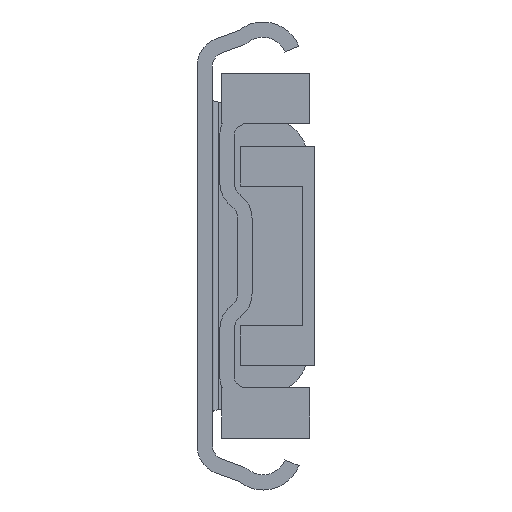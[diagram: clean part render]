
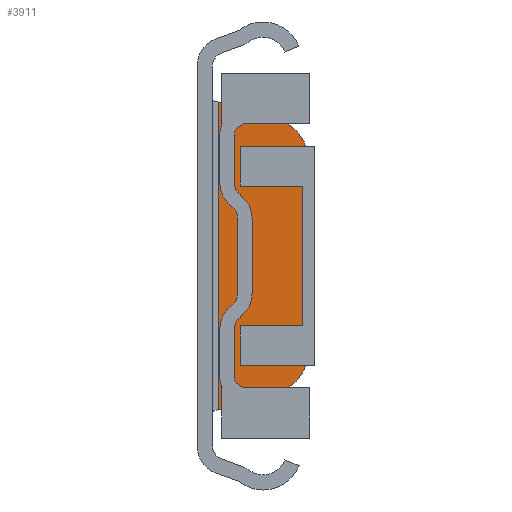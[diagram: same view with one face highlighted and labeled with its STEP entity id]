
A CAD part, front view. The second image highlights one B-rep face of the part: STEP entity #3911.
In plain terms, the highlighted planar face has unit normal (0, -1, 0).
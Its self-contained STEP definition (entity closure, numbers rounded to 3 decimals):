
#337=LINE('',#6723,#720);
#338=LINE('',#6728,#721);
#339=LINE('',#6732,#722);
#340=LINE('',#6734,#723);
#720=VECTOR('',#5567,1000.);
#721=VECTOR('',#5570,1000.);
#722=VECTOR('',#5573,1000.);
#723=VECTOR('',#5574,1000.);
#887=PLANE('',#4633);
#1739=ORIENTED_EDGE('',*,*,#2451,.F.);
#1740=ORIENTED_EDGE('',*,*,#2452,.F.);
#1741=ORIENTED_EDGE('',*,*,#2453,.F.);
#1742=ORIENTED_EDGE('',*,*,#2454,.F.);
#1743=ORIENTED_EDGE('',*,*,#2455,.F.);
#1744=ORIENTED_EDGE('',*,*,#2456,.F.);
#2451=EDGE_CURVE('',#2882,#2883,#337,.T.);
#2452=EDGE_CURVE('',#2884,#2882,#3104,.F.);
#2453=EDGE_CURVE('',#2885,#2884,#338,.T.);
#2454=EDGE_CURVE('',#2886,#2885,#3105,.F.);
#2455=EDGE_CURVE('',#2887,#2886,#339,.T.);
#2456=EDGE_CURVE('',#2883,#2887,#340,.T.);
#2882=VERTEX_POINT('',#6724);
#2883=VERTEX_POINT('',#6725);
#2884=VERTEX_POINT('',#6727);
#2885=VERTEX_POINT('',#6729);
#2886=VERTEX_POINT('',#6731);
#2887=VERTEX_POINT('',#6733);
#3104=CIRCLE('',#4634,8.);
#3105=CIRCLE('',#4635,8.);
#3341=EDGE_LOOP('',(#1739,#1740,#1741,#1742,#1743,#1744));
#3602=FACE_BOUND('',#3341,.T.);
#3911=ADVANCED_FACE('',(#3602),#887,.T.);
#4633=AXIS2_PLACEMENT_3D('',#6722,#5565,#5566);
#4634=AXIS2_PLACEMENT_3D('',#6726,#5568,#5569);
#4635=AXIS2_PLACEMENT_3D('',#6730,#5571,#5572);
#5565=DIRECTION('',(0.,-1.,0.));
#5566=DIRECTION('',(0.,0.,-1.));
#5567=DIRECTION('',(-0.966,0.,-0.259));
#5568=DIRECTION('',(0.,-1.,0.));
#5569=DIRECTION('',(0.,0.,-1.));
#5570=DIRECTION('',(0.,0.,-1.));
#5571=DIRECTION('',(0.,-1.,0.));
#5572=DIRECTION('',(0.,0.,-1.));
#5573=DIRECTION('',(0.966,0.,-0.259));
#5574=DIRECTION('',(0.,0.,1.));
#6722=CARTESIAN_POINT('',(12.9,861.1,14.965));
#6723=CARTESIAN_POINT('',(22.316,861.1,-20.174));
#6724=CARTESIAN_POINT('',(12.471,861.1,-22.812));
#6725=CARTESIAN_POINT('',(3.5,861.1,-25.216));
#6726=CARTESIAN_POINT('',(10.4,861.1,-15.085));
#6727=CARTESIAN_POINT('',(18.4,861.1,-15.085));
#6728=CARTESIAN_POINT('',(18.4,861.1,14.965));
#6729=CARTESIAN_POINT('',(18.4,861.1,15.085));
#6730=CARTESIAN_POINT('',(10.4,861.1,15.085));
#6731=CARTESIAN_POINT('',(12.471,861.1,22.812));
#6732=CARTESIAN_POINT('',(14.833,861.1,22.179));
#6733=CARTESIAN_POINT('',(3.5,861.1,25.216));
#6734=CARTESIAN_POINT('',(3.5,861.1,-25.766));
